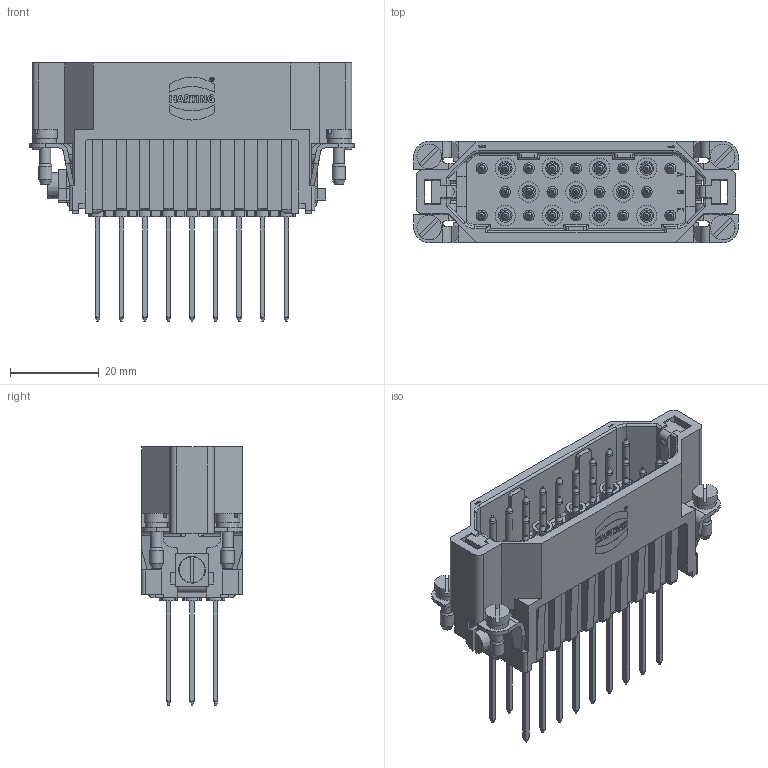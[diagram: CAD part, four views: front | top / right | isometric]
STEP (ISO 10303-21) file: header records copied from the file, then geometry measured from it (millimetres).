
FILE_DESCRIPTION(/* description */ (''),/* implementation_level */ '2;1');
FILE_NAME(/* name */ '100226360ugm000_e.stp',/* time_stamp */ '2022-03-11T16:38:01+01:00',/* author */ (''),/* organization */ (''),/* preprocessor_version */ 'ST-DEVELOPER v16.7',/* originating_system */ 'SIEMENS PLM Software NX 1911',/* authorisation */ '');
FILE_SCHEMA (('AUTOMOTIVE_DESIGN { 1 0 10303 214 3 1 1 1 }'));
Products named in the file (1): 100226360ugm000_e
Bounding box: 73 x 22.8 x 58 mm (x, y, z)
Volume: 27813.2 mm3; surface area: 19972.7 mm2
Topology: 1 solids, 1 shells, 1546 faces, 4666 edges, 3719 vertices
Faces by surface type: plane 926, cylinder 393, cone 95, extrusion 66, bspline 54, torus 8, sphere 4
Full cylindrical faces by diameter (mm): 0.671 x1, 0.984 x1, 1.585 x25, 1.8 x25, 2.45 x25, 2.5 x4, 2.85 x1, 3 x4, 4.6 x11, 5 x4, 5.5 x4
Entity records: 66061 total; most frequent: CARTESIAN_POINT 14942, ORIENTED_EDGE 7716, DIRECTION 7471, EDGE_CURVE 3858, VECTOR 2851, LINE 2785, VERTEX_POINT 2693, AXIS2_PLACEMENT_3D 2310
